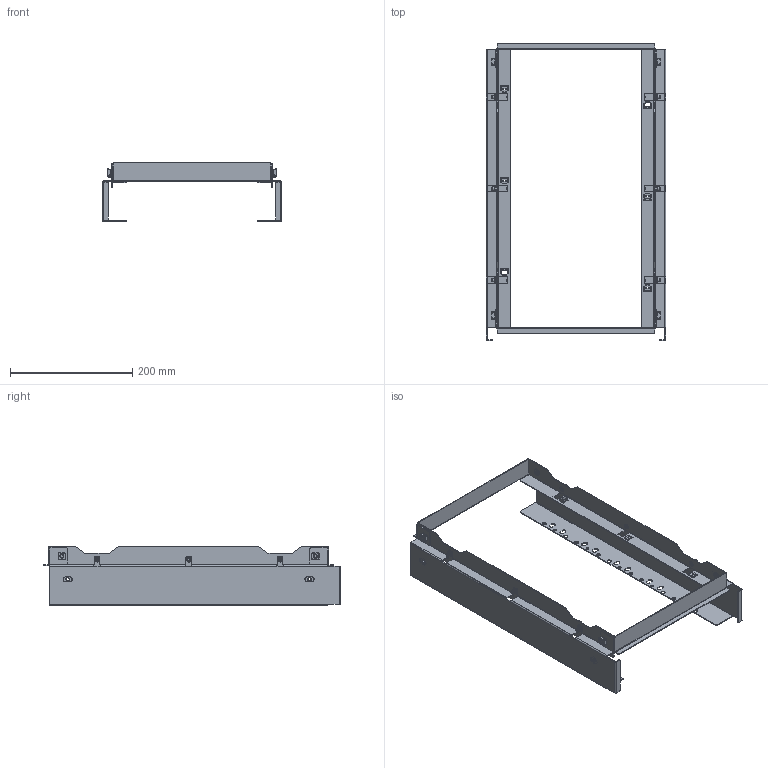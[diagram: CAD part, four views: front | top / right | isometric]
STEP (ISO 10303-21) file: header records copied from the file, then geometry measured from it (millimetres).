
FILE_DESCRIPTION (( 'STEP AP203' ), '1' );
FILE_NAME ('R5STMF53.STEP', '2022-04-13T09:36:40', ( '' ), ( '' ), 'SwSTEP 2.0', 'SolidWorks 2020', '' );
FILE_SCHEMA (( 'CONFIG_CONTROL_DESIGN' ));
Length unit declared in the file: millimetre
Products named in the file (11): RB.2134.00.00.0_-01; RB.2135.00.00.0 捘_-01; M6x12 DIN 965 PH cl.4,8 Zinc_stright; R5STMF53; M4 MGR-MKO-0420_straight; RB.2136.00.00.0; RB.2135.00.01.0_-01; M6 DIN 6923 cl.8,0 Zinc_straight; M6 A3400002 Zinc_straight; M4x8 DIN 965 PH cl.4,8 Zinc_straight; RB.2134.00.00.0_-09
Assembly tree (28 placements, depth 3):
  R5STMF53
    RB.2134.00.00.0_-01
    RB.2135.00.00.0 捘_-01  x2
      RB.2135.00.01.0_-01
      M4 MGR-MKO-0420_straight
    RB.2136.00.00.0  x2
    RB.2134.00.00.0_-09
    M6 A3400002 Zinc_straight  x4
    M6x12 DIN 965 PH cl.4,8 Zinc_stright  x4
    M4x8 DIN 965 PH cl.4,8 Zinc_straight  x6
    M6 DIN 6923 cl.8,0 Zinc_straight  x4
Bounding box: 293.6 x 486.4 x 96.67 mm (x, y, z)
Volume: 285762.4 mm3; surface area: 395485.1 mm2
Topology: 30 solids, 30 shells, 1796 faces, 4694 edges, 2930 vertices
Faces by surface type: plane 912, cylinder 628, cone 188, bspline 40, torus 28
Entity records: 27205 total; most frequent: CARTESIAN_POINT 5019, DIRECTION 4346, ORIENTED_EDGE 4260, EDGE_CURVE 2130, AXIS2_PLACEMENT_3D 1509, VERTEX_POINT 1336, VECTOR 1328, LINE 1328
